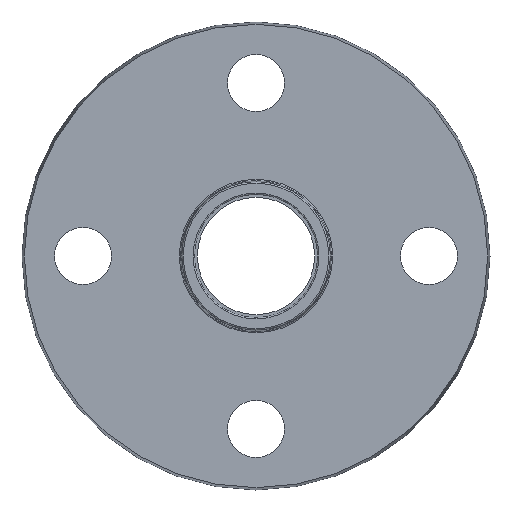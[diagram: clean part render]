
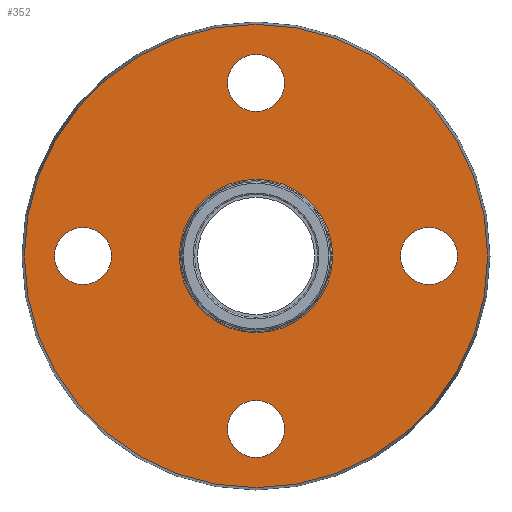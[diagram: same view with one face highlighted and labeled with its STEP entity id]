
A CAD part, left-side view. The second image highlights one B-rep face of the part: STEP entity #352.
In plain terms, the highlighted planar face has unit normal (-1, 0, 0).
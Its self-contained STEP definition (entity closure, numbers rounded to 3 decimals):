
#29=PLANE('',#409);
#56=FACE_BOUND('',#142,.T.);
#57=FACE_BOUND('',#143,.T.);
#58=FACE_BOUND('',#144,.T.);
#59=FACE_BOUND('',#145,.T.);
#60=FACE_BOUND('',#146,.T.);
#88=FACE_OUTER_BOUND('',#141,.T.);
#141=EDGE_LOOP('',(#301));
#142=EDGE_LOOP('',(#302));
#143=EDGE_LOOP('',(#303));
#144=EDGE_LOOP('',(#304));
#145=EDGE_LOOP('',(#305));
#146=EDGE_LOOP('',(#306));
#185=CIRCLE('',#408,18.835);
#186=CIRCLE('',#410,56.925);
#187=CIRCLE('',#411,7.);
#188=CIRCLE('',#412,7.);
#189=CIRCLE('',#413,7.);
#190=CIRCLE('',#414,7.);
#217=VERTEX_POINT('',#617);
#218=VERTEX_POINT('',#620);
#219=VERTEX_POINT('',#622);
#220=VERTEX_POINT('',#624);
#221=VERTEX_POINT('',#626);
#222=VERTEX_POINT('',#628);
#249=EDGE_CURVE('',#217,#217,#185,.T.);
#250=EDGE_CURVE('',#218,#218,#186,.T.);
#251=EDGE_CURVE('',#219,#219,#187,.T.);
#252=EDGE_CURVE('',#220,#220,#188,.T.);
#253=EDGE_CURVE('',#221,#221,#189,.T.);
#254=EDGE_CURVE('',#222,#222,#190,.T.);
#301=ORIENTED_EDGE('',*,*,#250,.T.);
#302=ORIENTED_EDGE('',*,*,#251,.T.);
#303=ORIENTED_EDGE('',*,*,#252,.T.);
#304=ORIENTED_EDGE('',*,*,#253,.T.);
#305=ORIENTED_EDGE('',*,*,#254,.T.);
#306=ORIENTED_EDGE('',*,*,#249,.F.);
#352=ADVANCED_FACE('',(#88,#56,#57,#58,#59,#60),#29,.T.);
#408=AXIS2_PLACEMENT_3D('',#618,#517,#518);
#409=AXIS2_PLACEMENT_3D('',#619,#519,#520);
#410=AXIS2_PLACEMENT_3D('',#621,#521,#522);
#411=AXIS2_PLACEMENT_3D('',#623,#523,#524);
#412=AXIS2_PLACEMENT_3D('',#625,#525,#526);
#413=AXIS2_PLACEMENT_3D('',#627,#527,#528);
#414=AXIS2_PLACEMENT_3D('',#629,#529,#530);
#517=DIRECTION('center_axis',(-1.,0.,0.));
#518=DIRECTION('ref_axis',(0.,1.,0.));
#519=DIRECTION('center_axis',(-1.,0.,0.));
#520=DIRECTION('ref_axis',(0.,0.,1.));
#521=DIRECTION('center_axis',(-1.,0.,0.));
#522=DIRECTION('ref_axis',(0.,0.,1.));
#523=DIRECTION('center_axis',(1.,0.,0.));
#524=DIRECTION('ref_axis',(0.,0.,1.));
#525=DIRECTION('center_axis',(1.,0.,0.));
#526=DIRECTION('ref_axis',(0.,1.,0.));
#527=DIRECTION('center_axis',(1.,0.,0.));
#528=DIRECTION('ref_axis',(0.,0.,-1.));
#529=DIRECTION('center_axis',(1.,0.,0.));
#530=DIRECTION('ref_axis',(0.,-1.,0.));
#617=CARTESIAN_POINT('',(-2.5,-18.835,0.));
#618=CARTESIAN_POINT('Origin',(-2.5,0.,0.));
#619=CARTESIAN_POINT('Origin',(-2.5,-18.544,0.));
#620=CARTESIAN_POINT('',(-2.5,-56.925,0.));
#621=CARTESIAN_POINT('Origin',(-2.5,0.,0.));
#622=CARTESIAN_POINT('',(-2.5,42.5,-7.));
#623=CARTESIAN_POINT('Origin',(-2.5,42.5,0.));
#624=CARTESIAN_POINT('',(-2.5,-7.,-42.5));
#625=CARTESIAN_POINT('Origin',(-2.5,0.,-42.5));
#626=CARTESIAN_POINT('',(-2.5,-42.5,7.));
#627=CARTESIAN_POINT('Origin',(-2.5,-42.5,0.));
#628=CARTESIAN_POINT('',(-2.5,7.,42.5));
#629=CARTESIAN_POINT('Origin',(-2.5,0.,42.5));
